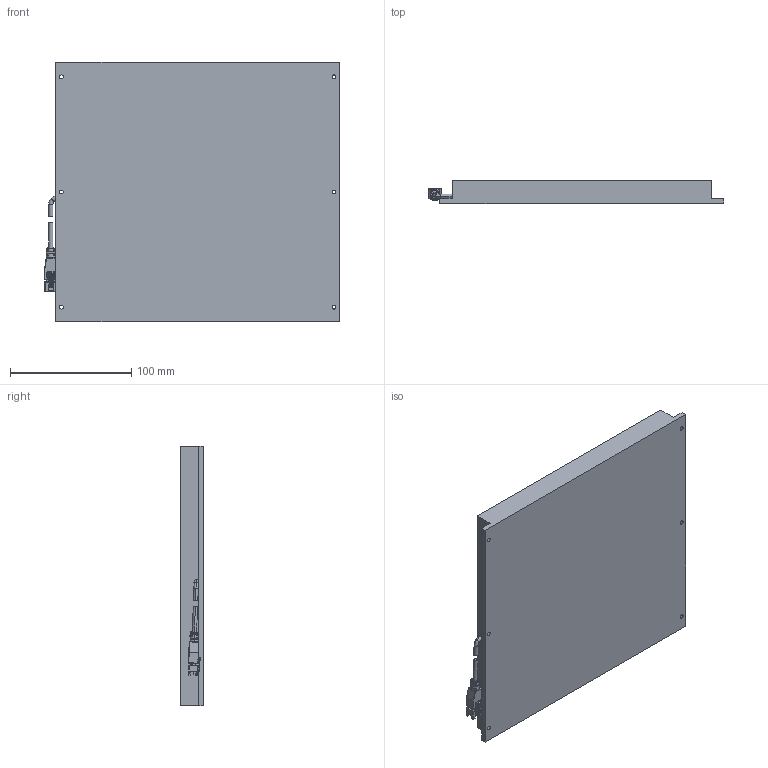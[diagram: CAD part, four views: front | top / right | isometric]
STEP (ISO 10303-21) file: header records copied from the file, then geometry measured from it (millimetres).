
FILE_DESCRIPTION((''),'2;1');
FILE_NAME('P-HFL-200-200_ASM','2014-06-10T',('Administrator'),(''),'PRO/ENGINEER BY PARAMETRIC TECHNOLOGY CORPORATION, 2011220','PRO/ENGINEER BY PARAMETRIC TECHNOLOGY CORPORATION, 2011220','');
FILE_SCHEMA(('CONFIG_CONTROL_DESIGN'));
Length unit declared in the file: millimetre
Products named in the file (5): WAIKE; LINE_TOU; BODY_12; ASSY_ASM; P-HFL-200-200_ASM
Assembly tree (4 placements, depth 3):
  P-HFL-200-200_ASM
    WAIKE
    ASSY_ASM
      LINE_TOU
      BODY_12
Bounding box: 243.41 x 19 x 214 mm (x, y, z)
Volume: 869490.2 mm3; surface area: 119630.9 mm2
Topology: 3 solids, 3 shells, 255 faces, 645 edges, 407 vertices
Faces by surface type: plane 143, cylinder 82, torus 12, bspline 8, sphere 8, cone 2
Entity records: 7971 total; most frequent: CARTESIAN_POINT 1625, DIRECTION 1321, ORIENTED_EDGE 1290, EDGE_CURVE 645, AXIS2_PLACEMENT_3D 452, VECTOR 417, LINE 417, VERTEX_POINT 407
